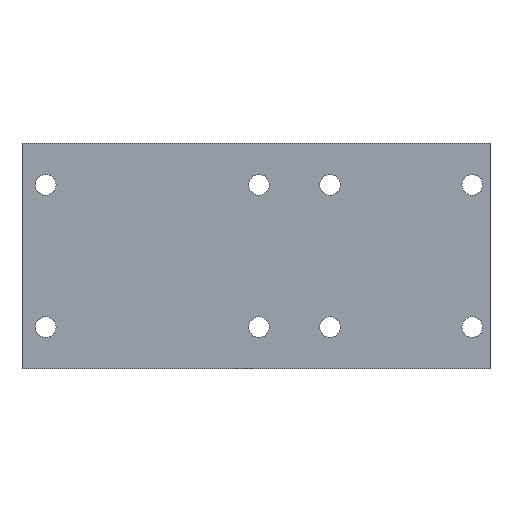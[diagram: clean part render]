
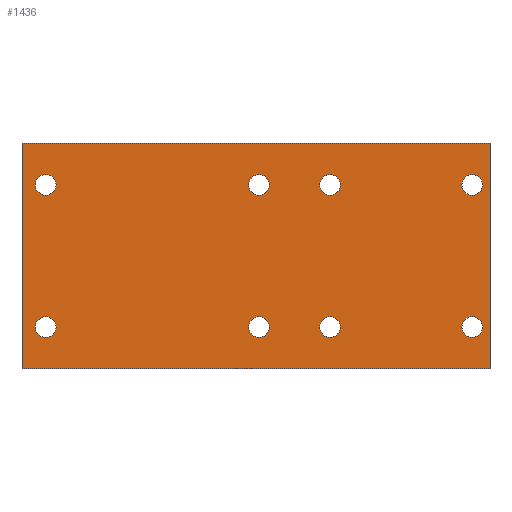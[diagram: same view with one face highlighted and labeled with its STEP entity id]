
A CAD part, left-side view. The second image highlights one B-rep face of the part: STEP entity #1436.
In plain terms, the highlighted planar face has unit normal (-1, 0, 0) as drawn and (0, 0, -1) by its records, which use the part's own axes.
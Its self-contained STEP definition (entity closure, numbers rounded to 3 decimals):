
#47=FACE_BOUND('',#241,.T.);
#48=FACE_BOUND('',#242,.T.);
#49=FACE_BOUND('',#243,.T.);
#50=FACE_BOUND('',#244,.T.);
#51=FACE_BOUND('',#245,.T.);
#52=FACE_BOUND('',#246,.T.);
#53=FACE_BOUND('',#247,.T.);
#54=FACE_BOUND('',#248,.T.);
#69=CIRCLE('',#1521,1.75);
#70=CIRCLE('',#1523,1.75);
#78=CIRCLE('',#1537,1.75);
#79=CIRCLE('',#1538,1.75);
#80=CIRCLE('',#1539,1.75);
#81=CIRCLE('',#1540,1.75);
#82=CIRCLE('',#1541,1.75);
#83=CIRCLE('',#1542,1.75);
#152=FACE_OUTER_BOUND('',#240,.T.);
#240=EDGE_LOOP('',(#1203,#1204,#1205,#1206));
#241=EDGE_LOOP('',(#1207));
#242=EDGE_LOOP('',(#1208));
#243=EDGE_LOOP('',(#1209));
#244=EDGE_LOOP('',(#1210));
#245=EDGE_LOOP('',(#1211));
#246=EDGE_LOOP('',(#1212));
#247=EDGE_LOOP('',(#1213));
#248=EDGE_LOOP('',(#1214));
#395=LINE('',#2282,#557);
#408=LINE('',#2317,#570);
#409=LINE('',#2319,#571);
#410=LINE('',#2320,#572);
#557=VECTOR('',#1799,10.);
#570=VECTOR('',#1828,10.);
#571=VECTOR('',#1829,10.);
#572=VECTOR('',#1830,10.);
#683=VERTEX_POINT('',#2246);
#684=VERTEX_POINT('',#2250);
#697=VERTEX_POINT('',#2280);
#698=VERTEX_POINT('',#2281);
#712=VERTEX_POINT('',#2316);
#713=VERTEX_POINT('',#2318);
#714=VERTEX_POINT('',#2321);
#715=VERTEX_POINT('',#2323);
#716=VERTEX_POINT('',#2325);
#717=VERTEX_POINT('',#2327);
#718=VERTEX_POINT('',#2329);
#719=VERTEX_POINT('',#2331);
#853=EDGE_CURVE('',#683,#683,#69,.T.);
#855=EDGE_CURVE('',#684,#684,#70,.T.);
#869=EDGE_CURVE('',#697,#698,#395,.T.);
#887=EDGE_CURVE('',#712,#697,#408,.T.);
#888=EDGE_CURVE('',#713,#712,#409,.T.);
#889=EDGE_CURVE('',#698,#713,#410,.T.);
#890=EDGE_CURVE('',#714,#714,#78,.T.);
#891=EDGE_CURVE('',#715,#715,#79,.T.);
#892=EDGE_CURVE('',#716,#716,#80,.T.);
#893=EDGE_CURVE('',#717,#717,#81,.T.);
#894=EDGE_CURVE('',#718,#718,#82,.T.);
#895=EDGE_CURVE('',#719,#719,#83,.T.);
#1203=ORIENTED_EDGE('',*,*,#869,.F.);
#1204=ORIENTED_EDGE('',*,*,#887,.F.);
#1205=ORIENTED_EDGE('',*,*,#888,.F.);
#1206=ORIENTED_EDGE('',*,*,#889,.F.);
#1207=ORIENTED_EDGE('',*,*,#853,.T.);
#1208=ORIENTED_EDGE('',*,*,#855,.T.);
#1209=ORIENTED_EDGE('',*,*,#890,.T.);
#1210=ORIENTED_EDGE('',*,*,#891,.T.);
#1211=ORIENTED_EDGE('',*,*,#892,.T.);
#1212=ORIENTED_EDGE('',*,*,#893,.T.);
#1213=ORIENTED_EDGE('',*,*,#894,.T.);
#1214=ORIENTED_EDGE('',*,*,#895,.T.);
#1371=PLANE('',#1536);
#1436=ADVANCED_FACE('',(#152,#47,#48,#49,#50,#51,#52,#53,#54),#1371,.F.);
#1521=AXIS2_PLACEMENT_3D('',#2247,#1771,#1772);
#1523=AXIS2_PLACEMENT_3D('',#2251,#1776,#1777);
#1536=AXIS2_PLACEMENT_3D('',#2315,#1826,#1827);
#1537=AXIS2_PLACEMENT_3D('',#2322,#1831,#1832);
#1538=AXIS2_PLACEMENT_3D('',#2324,#1833,#1834);
#1539=AXIS2_PLACEMENT_3D('',#2326,#1835,#1836);
#1540=AXIS2_PLACEMENT_3D('',#2328,#1837,#1838);
#1541=AXIS2_PLACEMENT_3D('',#2330,#1839,#1840);
#1542=AXIS2_PLACEMENT_3D('',#2332,#1841,#1842);
#1771=DIRECTION('center_axis',(0.,0.,1.));
#1772=DIRECTION('ref_axis',(-1.,0.,0.));
#1776=DIRECTION('center_axis',(0.,0.,1.));
#1777=DIRECTION('ref_axis',(-1.,0.,0.));
#1799=DIRECTION('',(0.,-1.,0.));
#1826=DIRECTION('center_axis',(0.,0.,1.));
#1827=DIRECTION('ref_axis',(1.,0.,0.));
#1828=DIRECTION('',(-1.,0.,0.));
#1829=DIRECTION('',(0.,1.,0.));
#1830=DIRECTION('',(1.,0.,0.));
#1831=DIRECTION('center_axis',(0.,0.,1.));
#1832=DIRECTION('ref_axis',(-1.,0.,0.));
#1833=DIRECTION('center_axis',(0.,0.,1.));
#1834=DIRECTION('ref_axis',(-1.,0.,0.));
#1835=DIRECTION('center_axis',(0.,0.,1.));
#1836=DIRECTION('ref_axis',(-1.,0.,0.));
#1837=DIRECTION('center_axis',(0.,0.,1.));
#1838=DIRECTION('ref_axis',(-1.,0.,0.));
#1839=DIRECTION('center_axis',(0.,0.,1.));
#1840=DIRECTION('ref_axis',(-1.,0.,0.));
#1841=DIRECTION('center_axis',(0.,0.,1.));
#1842=DIRECTION('ref_axis',(-1.,0.,0.));
#2246=CARTESIAN_POINT('',(-158.25,327.,-179.5));
#2247=CARTESIAN_POINT('Origin',(-160.,327.,-179.5));
#2250=CARTESIAN_POINT('',(-182.25,327.,-179.5));
#2251=CARTESIAN_POINT('Origin',(-184.,327.,-179.5));
#2280=CARTESIAN_POINT('',(-191.,379.,-179.5));
#2281=CARTESIAN_POINT('',(-191.,300.,-179.5));
#2282=CARTESIAN_POINT('',(-191.,359.25,-179.5));
#2315=CARTESIAN_POINT('Origin',(-89.5,339.5,-179.5));
#2316=CARTESIAN_POINT('',(-153.,379.,-179.5));
#2317=CARTESIAN_POINT('',(-121.25,379.,-179.5));
#2318=CARTESIAN_POINT('',(-153.,300.,-179.5));
#2319=CARTESIAN_POINT('',(-153.,319.75,-179.5));
#2320=CARTESIAN_POINT('',(-140.25,300.,-179.5));
#2321=CARTESIAN_POINT('',(-182.25,339.,-179.5));
#2322=CARTESIAN_POINT('Origin',(-184.,339.,-179.5));
#2323=CARTESIAN_POINT('',(-158.25,375.,-179.5));
#2324=CARTESIAN_POINT('Origin',(-160.,375.,-179.5));
#2325=CARTESIAN_POINT('',(-182.25,303.,-179.5));
#2326=CARTESIAN_POINT('Origin',(-184.,303.,-179.5));
#2327=CARTESIAN_POINT('',(-158.25,339.,-179.5));
#2328=CARTESIAN_POINT('Origin',(-160.,339.,-179.5));
#2329=CARTESIAN_POINT('',(-182.25,375.,-179.5));
#2330=CARTESIAN_POINT('Origin',(-184.,375.,-179.5));
#2331=CARTESIAN_POINT('',(-158.25,303.,-179.5));
#2332=CARTESIAN_POINT('Origin',(-160.,303.,-179.5));
